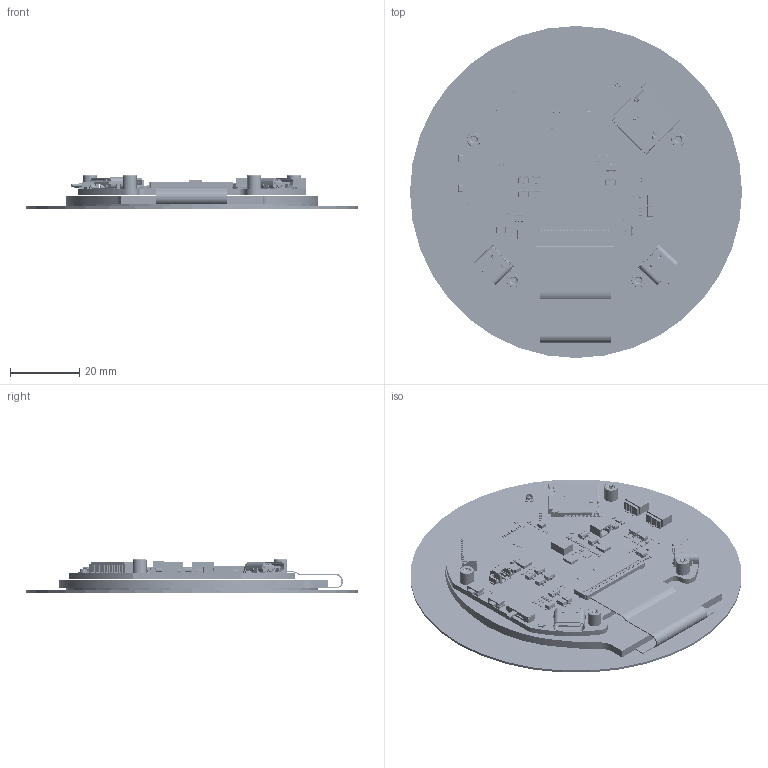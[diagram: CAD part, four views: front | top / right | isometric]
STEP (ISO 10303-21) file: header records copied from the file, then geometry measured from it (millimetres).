
FILE_DESCRIPTION(/* description */ ('Open CASCADE Model','CAx-IF Rec.Pracs.---Representation and Presentation of Product Manufacturing Information (PMI)---4.0---2014-10-13'),/* implementation_level */ '2;1');
FILE_NAME(/* name */ 'ESP32-S3-Touch-LCD-2.8C v3.step',/* time_stamp */ '2024-12-26T09:38:09+08:00',/* author */ (''),/* organization */ (''),/* preprocessor_version */ 'ST-DEVELOPER v20',/* originating_system */ 'Autodesk Translation Framework v13.20.0.188',/* authorisation */ '');
FILE_SCHEMA (('AP242_MANAGED_MODEL_BASED_3D_ENGINEERING_MIM_LF { 1 0 10303 442 1 1 4 }'));
Products named in the file (243): PCB; Board; R58; R1; R41; R30; J7; FPC0.5_2H-S-W-40P; FPC0_5_2H-S-W-40P_ASM_1_ASM; FPC0_5_2H-S-W-40P-6314_AF0_ASM__ASM; FPC0_5_2H-S-W-40P-30491_AF0_ASM_ASM; 7_1_2_3_4_5_6_7_8_0037_1; 6_1_2_3_4_5_6_7_8_0028_1; FPC0_5_2H-W__1_2_30034_1; Q4; R52; R53; R57; D7; SOD523; Q5; R54; R55; U1; 89451792; Extruded; Y2; 89452560; Extruded_1; U8; 89454992; Extruded_2; 93979136; Cylinder; J4; 93979736; 89456528; 89456400; 89456656; 946946224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
Assembly tree (429 placements, depth 8):
  PCB
    Board
      R58
        User_Library-RES_0603-0201
      R1
        User_Library-RES_0603-0201
      R41
        User_Library-RES_0603-0201
      R30
        User_Library-RES_0603-0201
      J7
        FPC0.5_2H-S-W-40P
          FPC0_5_2H-S-W-40P_ASM_1_ASM
            FPC0_5_2H-S-W-40P-6314_AF0_ASM__ASM
              FPC0_5_2H-W__1_2_30034_1  x40
              FPC0_5_2H-S-W-40P-30491_AF0_ASM_ASM
                7_1_2_3_4_5_6_7_8_0037_1
                6_1_2_3_4_5_6_7_8_0028_1
      Q4
        SOT-23
      R52
        User_Library-RES_0603-0201
      R53
        User_Library-RES_0603-0201
      R57
        User_Library-RES_0603-0201
      D7
        SOD523
      Q5
        SOT-23
      R54
        User_Library-RES_0603-0201
      R55
        User_Library-RES_0603-0201
      U1
        89451792
          Extruded
      Y2
        89452560
          Extruded_1
      U8
        89454992
          Extruded_2
        93979136
          Cylinder
      J4
        89456400  x2
        93979736  x2
        89456528
        89456656
        946946224
        93979856  x2
        93979976  x2
      J10
        93979376  x4
        93979496  x4
        93979616  x4
        89455504
        89455632
        89455888
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Bounding box: 95.86 x 95.86 x 9.71 mm (x, y, z)
Volume: 24918.9 mm3; surface area: 40820.4 mm2
Topology: 498 solids, 533 shells, 27186 faces, 72370 edges, 47152 vertices
Faces by surface type: plane 18434, bspline 5043, cylinder 3095, sphere 440, cone 115, torus 59
Full cylindrical faces by diameter (mm): 0.1 x3, 0.2 x1, 0.25 x1, 0.3 x3, 0.35 x1, 0.5 x9, 0.7 x5, 0.762 x4, 0.8 x4, 1.72 x1, 1.86 x1, 2 x50, 3 x4, 3.15 x4, 4 x4, 70.64 x1, 72.64 x1, 95.86 x1
Entity records: 314792 total; most frequent: CARTESIAN_POINT 87525, ORIENTED_EDGE 48016, DIRECTION 42534, EDGE_CURVE 24026, LINE 19838, VECTOR 19838, VERTEX_POINT 15710, AXIS2_PLACEMENT_3D 11348
